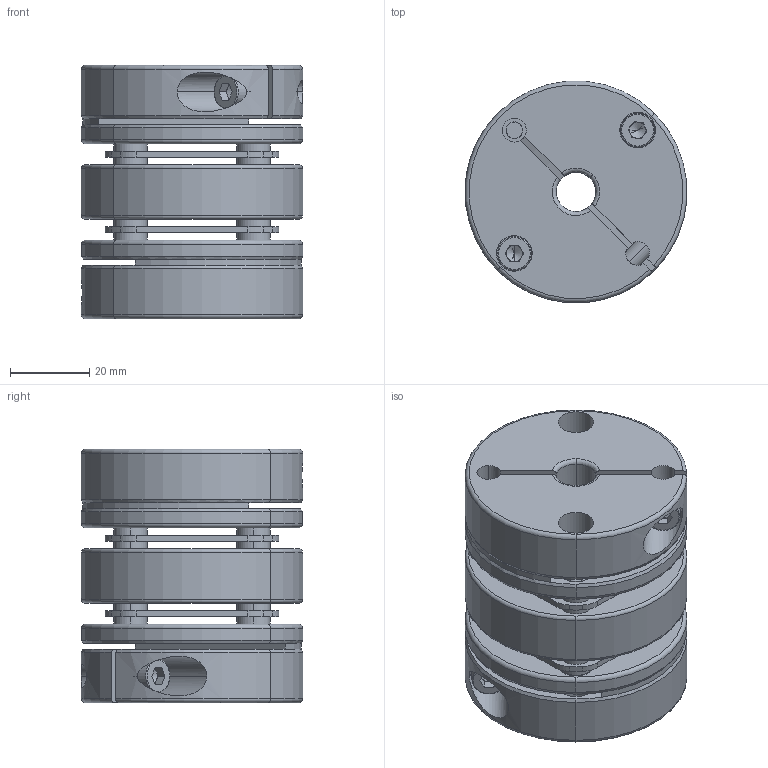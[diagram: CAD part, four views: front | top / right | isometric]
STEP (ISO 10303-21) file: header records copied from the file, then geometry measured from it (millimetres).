
FILE_DESCRIPTION (( 'STEP AP203' ), '1' );
FILE_NAME ('DXC-56X64-10-10.STEP', '2024-03-16T07:01:00', ( '' ), ( '' ), 'SwSTEP 2.0', 'SolidWorks 2020', '' );
FILE_SCHEMA (( 'CONFIG_CONTROL_DESIGN' ));
Length unit declared in the file: millimetre
Products named in the file (6): 56臚え薊粣ん傷裔; 56臚え倰笢潔璃; DXC-56X64-10-10; socket head cap screw_iso_ISO 4762 M5 x 16 - 16C; 56臚え郪; socket head cap screw_iso_ISO 4762 M5 x 10 - 10C
Assembly tree (15 placements, depth 2):
  DXC-56X64-10-10
    56臚え郪  x2
    56臚え薊粣ん傷裔  x2
    socket head cap screw_iso_ISO 4762 M5 x 10 - 10C  x8
    socket head cap screw_iso_ISO 4762 M5 x 16 - 16C  x2
    56臚え倰笢潔璃
Bounding box: 56 x 56 x 64 mm (x, y, z)
Volume: 112262.9 mm3; surface area: 46913.2 mm2
Topology: 15 solids, 15 shells, 528 faces, 1232 edges, 752 vertices
Faces by surface type: plane 208, cylinder 202, torus 68, cone 50
Entity records: 7020 total; most frequent: CARTESIAN_POINT 1309, DIRECTION 1124, ORIENTED_EDGE 928, AXIS2_PLACEMENT_3D 468, EDGE_CURVE 464, VERTEX_POINT 293, CIRCLE 256, EDGE_LOOP 245
